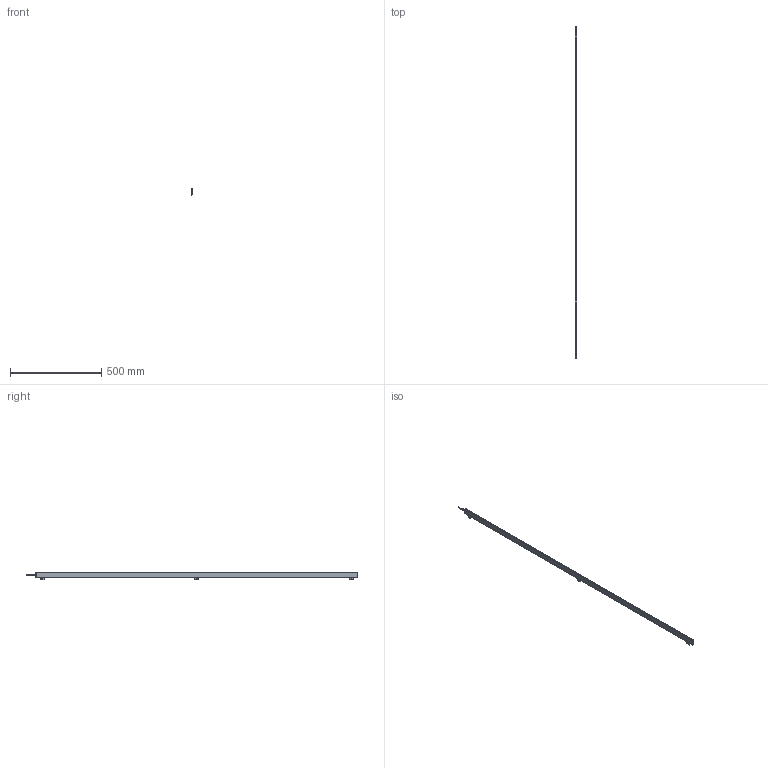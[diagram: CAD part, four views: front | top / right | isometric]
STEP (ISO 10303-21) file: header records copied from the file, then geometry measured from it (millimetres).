
FILE_DESCRIPTION (( 'STEP AP214' ), '1' );
FILE_NAME ('ILG-N-K2-1770mm.STEP', '2017-07-10T14:03:05', ( '' ), ( '' ), 'SwSTEP 2.0', 'SolidWorks 2016', '' );
FILE_SCHEMA (( 'AUTOMOTIVE_DESIGN' ));
Length unit declared in the file: millimetre
Products named in the file (1): ILG-N-K2-1770mm
Bounding box: 10.23 x 1823.5 x 42.41 mm (x, y, z)
Surface area: 297689.8 mm2 (no closed solid volume)
Topology: 0 solids, 16 shells, 781 faces, 2020 edges, 1269 vertices
Faces by surface type: plane 346, cylinder 297, cone 90, bspline 32, torus 16
Entity records: 34483 total; most frequent: CARTESIAN_POINT 6956, ORIENTED_EDGE 3993, DIRECTION 3858, EDGE_CURVE 2004, AXIS2_PLACEMENT_3D 1419, VERTEX_POINT 1269, LINE 1020, VECTOR 1020
